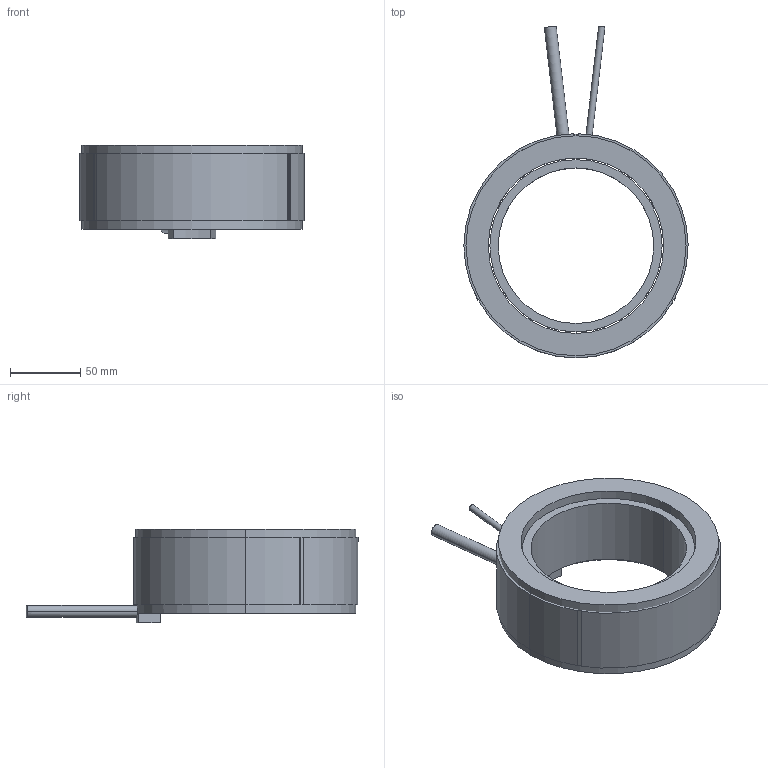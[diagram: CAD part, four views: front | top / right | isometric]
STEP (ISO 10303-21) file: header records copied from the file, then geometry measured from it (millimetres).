
FILE_DESCRIPTION (( 'STEP AP203' ), '1' );
FILE_NAME ('TM160-60 3D.STEP', '2022-11-18T05:07:32', ( '' ), ( '' ), 'SwSTEP 2.0', 'SolidWorks 2021', '' );
FILE_SCHEMA (( 'CONFIG_CONTROL_DESIGN' ));
Length unit declared in the file: millimetre
Products named in the file (1): TM160-60 3D
Bounding box: 160 x 236.92 x 67 mm (x, y, z)
Volume: 648311.1 mm3; surface area: 164328.4 mm2
Topology: 3 solids, 3 shells, 110 faces, 303 edges, 202 vertices
Faces by surface type: cylinder 79, plane 31
Entity records: 3778 total; most frequent: CARTESIAN_POINT 734, DIRECTION 673, ORIENTED_EDGE 606, EDGE_CURVE 303, AXIS2_PLACEMENT_3D 267, VERTEX_POINT 202, CIRCLE 156, LINE 139
